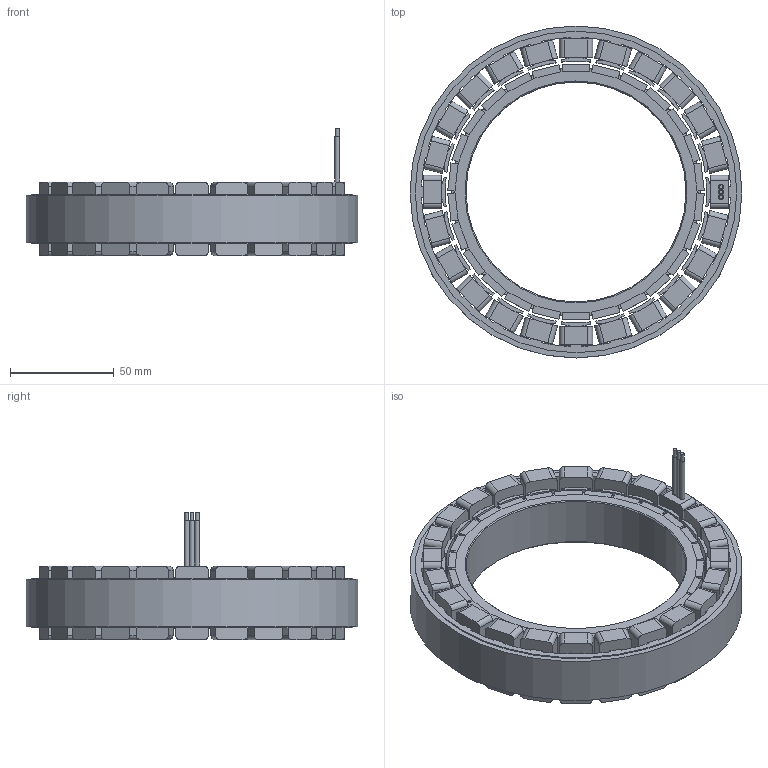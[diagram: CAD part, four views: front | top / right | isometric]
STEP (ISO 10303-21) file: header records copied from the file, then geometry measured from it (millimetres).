
FILE_DESCRIPTION (( 'STEP AP214' ), '1' );
FILE_NAME ('16035萇儂.STEP', '2024-08-29T00:43:43', ( '' ), ( '' ), 'SwSTEP 2.0', 'SolidWorks 2023', '' );
FILE_SCHEMA (( 'AUTOMOTIVE_DESIGN' ));
Length unit declared in the file: millimetre
Products named in the file (1): 16035电机
Bounding box: 160 x 160 x 61.6 mm (x, y, z)
Surface area: 111684.8 mm2 (no closed solid volume)
Topology: 0 solids, 55 shells, 516 faces, 2094 edges, 1594 vertices
Faces by surface type: plane 364, cylinder 150, cone 2
Full cylindrical faces by diameter (mm): 1.8 x3, 2.5 x3, 106 x1, 155 x2, 160 x1
Entity records: 21641 total; most frequent: CARTESIAN_POINT 4185, DIRECTION 3666, ORIENTED_EDGE 3177, EDGE_CURVE 2078, VERTEX_POINT 1590, VECTOR 1524, LINE 1524, AXIS2_PLACEMENT_3D 1071
